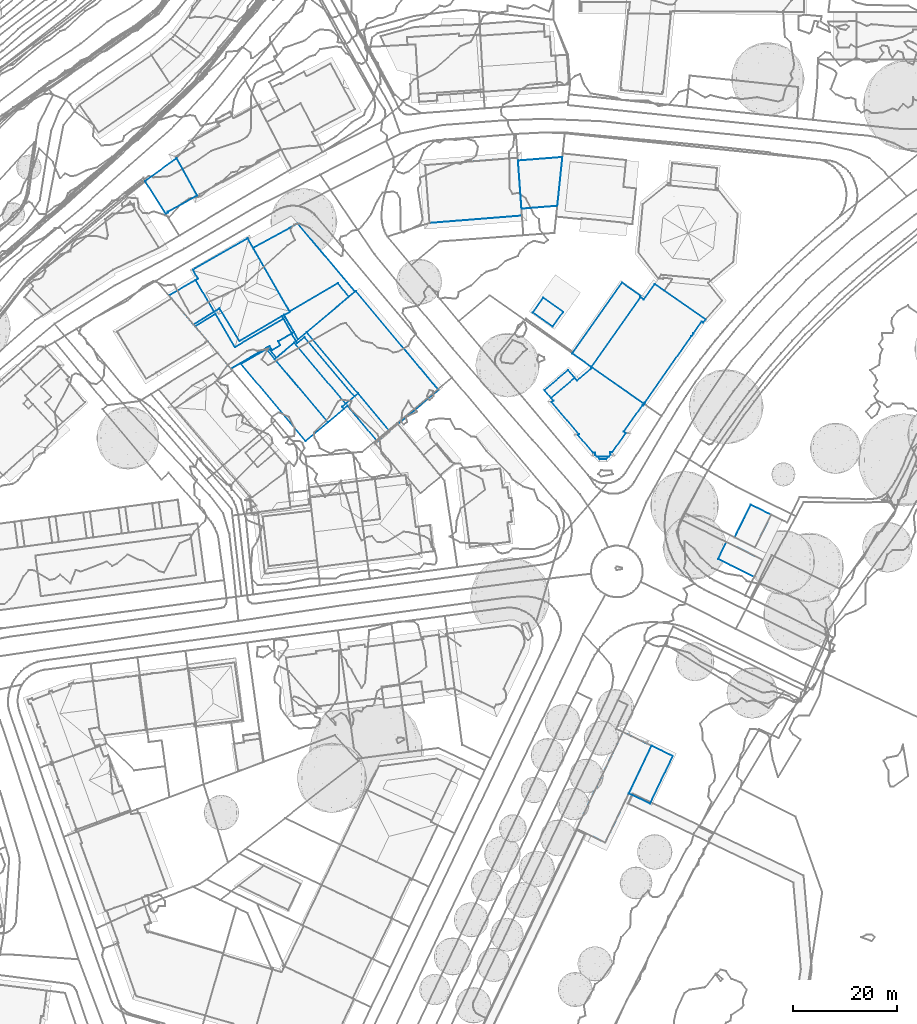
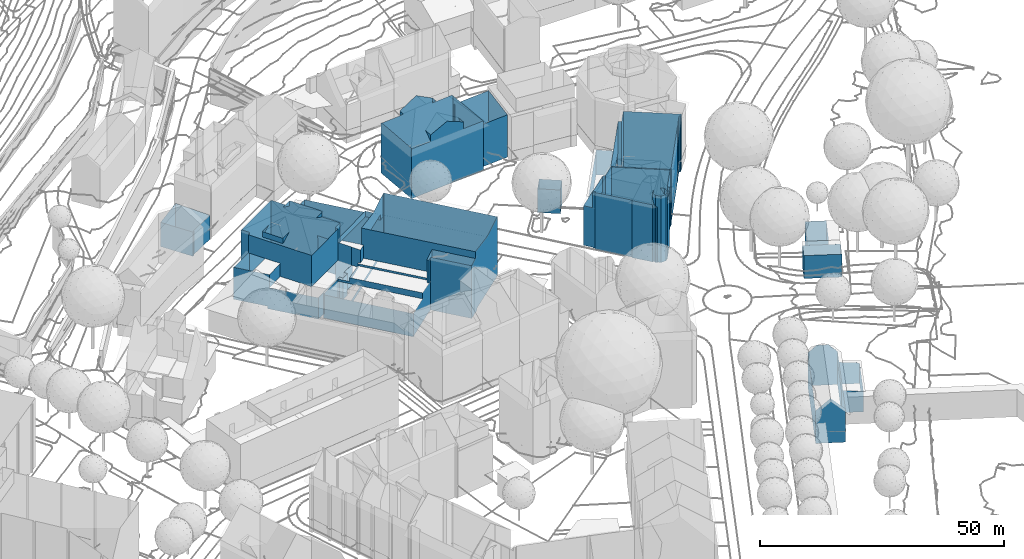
# Not in any storey, part 50 of 477: 12 walls.
"""IFC4 building model written with IfcOpenShell, lengths in metres."""

from ifc_helpers import new_model, si_unit, frame, origin_with_axes, place, context, subcontext, project, spatial, polygons, element, save


model = new_model("IFC4")

# Units and contexts
model_context = context("Model", 3, precision=1e-05, world=origin_with_axes())
body_context = subcontext(model_context, "Body", "Model", "MODEL_VIEW")
ifc_project = project(units=[si_unit("AREAUNIT", "SQUARE_METRE"), si_unit("LENGTHUNIT", "METRE")], contexts=[model_context])

# Sites, building
site_1_placement = place(None, origin_with_axes())
site_1 = spatial("IfcSite", under=ifc_project, at=site_1_placement, Name="Topoexport Site")
site_2_placement = place(site_1_placement, origin_with_axes())
site_2 = spatial("IfcSite", under=site_1, at=site_2_placement, Name="TPX_BUILDINGS")
building_1_placement = place(site_2_placement, frame((498.6247320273, 242.5555160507, 500.7935), z_axis=(0.0, 0.0, 1.0), x_axis=(1.0, 0.0, 0.0)))
building_1 = spatial("IfcBuilding", under=site_2, at=building_1_placement, Name="Building 78", CompositionType="ELEMENT")

# Wall
wall_1_placement = place(None, frame((498.6247320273, 242.5555160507, 500.7935), z_axis=(0.0, 0.0, 1.0), x_axis=(1.0, 0.0, 0.0)))
element("IfcWall", 1, at=wall_1_placement, inside=building_1, Name="Wall 0", context=body_context, shape_type="Tessellation", body=[
    polygons([(9.5240000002, -3.6611999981, 12.7668), (9.5240000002, -3.6611999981, 14.1177), (11.8209999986, -2.3183999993, 14.1177), (7.0659999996, 0.5429000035, 12.7668), (9.362999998, 1.8847000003, 14.1177), (7.0659999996, 0.5429000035, 14.1177), (13.7329999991, -13.0097999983, -0.6109), (11.9100000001, -14.0595999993, 4.7326), (13.7329999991, -13.0097999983, 4.7326), (13.8579999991, -13.1591999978, -0.6109), (13.8579999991, -13.1591999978, 4.7326), (18.7349999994, -10.3310999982, -0.6109), (18.7349999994, -10.3310999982, 4.7325), (18.6279999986, -10.191399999, -0.6109), (18.6279999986, -10.191399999, 4.7325), (19.3709999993, -9.7636999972, -0.6109), (19.3709999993, -9.7636999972, 4.7325), (19.8000000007, -10.5088, -0.6109), (19.8000000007, -10.5088, 4.7325), (21.4030000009, -9.5859999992, -0.6109), (21.4030000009, -9.5859999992, 4.7325), (20.9739999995, -8.8407999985, -0.6109), (20.9739999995, -8.8407999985, 4.7325), (24.0399999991, -7.0761999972, -0.6109), (24.0399999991, -7.0761999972, 4.7325), (22.1510000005, -3.8017999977, -0.397), (22.1109999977, -3.7314999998, -0.6109), (22.1109999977, -3.7314999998, -0.397), (22.1510000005, -3.8017999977, 4.7326), (13.5709999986, -8.7636999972, -0.6109), (13.5709999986, -8.7636999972, -0.397), (4.7369999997, -5.5927999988, -0.6109), (8.6909999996, -3.1327999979, -0.3969), (4.7369999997, -5.5927999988, 0.0), (9.6979999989, -2.5058999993, -0.6109), (9.6979999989, -2.5058999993, -0.3969), (21.1669999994, 0.4414000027, 12.8998), (19.0489999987, -0.7968999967, 14.1177), (21.1669999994, 0.4414000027, 14.1177), (17.2879999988, 7.1787, 12.8748), (17.2879999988, 7.1787, 14.1177), (15.1259999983, 5.9150000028, 14.1177), (4.5920000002, 4.933600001, -0.3969), (15.112999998, 10.9550000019, -0.3969), (4.5920000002, 4.933600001, 12.6968), (15.112999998, 10.9550999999, 7.8213), (12.4820000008, 9.4492000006, 12.7388), (15.112999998, 10.9550999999, 2.8908), (23.2469999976, -3.1708999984, -0.397), (23.2469999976, -3.1708999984, 6.2014), (21.756000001, -4.0282999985, 4.7326), (21.756000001, -4.0282999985, 12.8108), (12.6730000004, -9.9433999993, 12.5368), (22.0170000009, -4.4814999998, 12.5368), (12.6730000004, -9.9433999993, 4.7326), (22.0170000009, -4.4814999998, 4.7326), (5.1400000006, 2.942400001, 0.0), (8.6909999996, -3.1327999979, 0.0), (8.938000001, -3.5546999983, 7.9963), (5.1400000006, 2.942400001, 12.5368), (8.938000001, -3.5546999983, 4.7326), (5.1400000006, 2.942400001, 7.9963), (5.0500000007, -5.9618999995, 7.9963), (0.0, 0.0, 7.9963), (5.0500000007, -5.9618999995, 4.7326), (11.9100000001, -14.0595999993, -0.6109), (0.0, 0.0, 0.0), (5.5850000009, 3.1972000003, 12.7968), (5.5850000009, 3.1972000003, -0.3969), (4.699000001, 4.746100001, 12.8058), (15.2199999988, 10.7695000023, 12.8608), (15.112999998, 10.9550999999, 12.7528), (17.4919999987, 6.8242000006, 14.2747), (20.9419999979, 0.8310000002, 14.2956), (23.2469999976, -3.1708999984, 12.8048), (23.1449999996, -2.9941999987, 12.9128), (5.1400000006, 2.942400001, -0.3969)], [[[3, 2, 1]], [[6, 5, 4]], [[2, 6, 1]], [[9, 8, 7]], [[11, 9, 10]], [[13, 11, 12]], [[15, 13, 14]], [[17, 15, 16]], [[19, 17, 18]], [[21, 19, 20]], [[23, 21, 22]], [[25, 23, 24]], [[27, 26, 24]], [[26, 27, 28]], [[25, 26, 29]], [[26, 25, 24]], [[31, 28, 30]], [[34, 33, 32]], [[33, 36, 35]], [[33, 35, 32]], [[36, 31, 35]], [[39, 38, 37]], [[42, 41, 40]], [[45, 44, 43]], [[48, 47, 46]], [[50, 29, 49]], [[29, 26, 49]], [[52, 51, 29]], [[55, 54, 53]], [[55, 56, 54]], [[56, 51, 52]], [[58, 57, 33]], [[53, 59, 55]], [[59, 53, 60]], [[55, 59, 61]], [[62, 59, 60]], [[59, 63, 61]], [[65, 63, 64]], [[34, 66, 8]], [[8, 65, 34]], [[67, 34, 65]], [[34, 32, 66]], [[67, 65, 64]], [[69, 68, 45]], [[43, 69, 45]], [[68, 70, 45]], [[46, 72, 71]], [[40, 41, 73]], [[46, 71, 40]], [[48, 46, 50]], [[48, 49, 44]], [[37, 46, 40]], [[37, 50, 46]], [[40, 74, 37]], [[74, 39, 37]], [[37, 76, 75]], [[49, 48, 50]], [[50, 37, 75]], [[73, 74, 40]], [[67, 64, 57]], [[77, 57, 69]], [[57, 64, 62]], [[60, 68, 69]], [[62, 69, 57]], [[69, 62, 60]], [[6, 4, 1]], [[8, 66, 7]], [[9, 7, 10]], [[11, 10, 12]], [[13, 12, 14]], [[15, 14, 16]], [[17, 16, 18]], [[19, 18, 20]], [[21, 20, 22]], [[23, 22, 24]], [[28, 27, 30]], [[58, 33, 34]], [[31, 30, 35]], [[45, 47, 44]], [[72, 46, 47]], [[44, 47, 48]], [[75, 52, 29]], [[50, 75, 29]], [[52, 54, 56]], [[57, 77, 33]], [[63, 65, 61]]]),
])

# Building
building_2_placement = place(site_2_placement, frame((512.3577320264, 229.5457160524, 499.1847), z_axis=(0.0, 0.0, 1.0), x_axis=(1.0, 0.0, 0.0)))
building_2 = spatial("IfcBuilding", under=site_2, at=building_2_placement, Name="Building 80", CompositionType="ELEMENT")

# Wall
wall_2_placement = place(None, frame((512.3577320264, 229.5457160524, 499.1847), z_axis=(0.0, 0.0, 1.0), x_axis=(1.0, 0.0, 0.0)))
element("IfcWall", 2, at=wall_2_placement, inside=building_2, Name="Wall 0", context=body_context, shape_type="Tessellation", body=[
    polygons([(20.2410000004, -7.8192999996, -0.0321), (20.2410000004, -7.8192999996, -0.0021), (19.5500000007, -8.4013999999, -0.225), (19.5500000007, -8.4013999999, -0.0021), (22.6040000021, -5.8291000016, -0.225), (22.6040000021, -5.8291000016, -0.0321), (19.8770000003, -8.7890999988, -0.2251), (19.8770000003, -8.7890999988, -0.0021), (19.8770000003, -8.7890999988, 7.1012), (19.5500000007, -8.4013999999, 7.1012), (19.8770000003, -8.7890999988, 12.7847), (22.1979999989, 13.7987999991, 15.1225), (22.1979999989, 13.7987999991, 0.2619), (32.1220000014, 1.9580000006, 0.2619), (30.0139999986, 4.4717000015, 15.1185), (35.0989999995, -1.5947000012, 0.2619), (38.0760000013, -5.1475000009, 0.2619), (22.0749999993, 13.6963, 7.6682), (22.0749999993, 13.6963, 0.2619), (22.0749999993, 13.6963, 15.0985), (27.9970000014, -13.6240000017, 13.3336), (21.9180000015, -6.4072000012, 13.3336), (27.9970000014, -13.6240000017, 15.0425), (12.0340000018, 5.3291000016, 15.0425), (21.9180000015, -6.4072000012, 7.5842), (12.3099999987, 5.0009999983, 10.8489), (12.0340000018, 5.3291000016, 10.8489), (12.3099999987, 5.0009999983, 7.5842), (9.9090000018, 5.7050999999, 1.1238), (8.0230000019, 8.9814000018, 1.1239), (9.9090000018, 5.7050999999, 10.8489), (9.4670000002, 9.9199000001, 1.1239), (18.7419999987, 15.3828000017, 1.1868), (9.4670000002, 9.9199000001, 1.1868), (2.4330000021, 22.1367000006, 1.1869), (11.0240000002, 26.817400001, 9.4411), (2.4330000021, 22.1367000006, 9.4411), (9.5139999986, 9.8388999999, 1.1239), (8.0230000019, 8.9814000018, 10.8489), (9.5139999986, 9.8388999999, 10.8489), (9.4670000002, 9.9199000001, 9.4411), (18.7419999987, 15.3828000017, 10.8489), (9.4670000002, 9.9199000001, 10.8489), (10.9149999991, 3.8183999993, 7.5842), (10.693, 4.1992000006, 7.5842), (10.9149999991, 3.8183999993, 10.8489), (9.8399999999, 5.6649999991, 10.8489), (9.8399999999, 5.6649999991, 6.3413), (10.693, 4.1992000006, 6.3413), (18.7419999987, 15.3828000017, 1.1239), (20.8209999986, 12.7314999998, 1.1868), (20.8209999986, 12.7314000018, 9.441), (18.7419999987, 15.3828000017, 9.4411), (20.5670000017, -8.2060000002, 7.5842), (20.6409999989, -8.2754000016, 7.5842), (20.6429999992, -8.2763999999, 3.7756), (20.6429999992, -8.2763999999, 1.8717), (20.5670000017, -8.2060000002, -0.0321), (20.6440000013, -8.2773000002, -0.0321), (7.6700000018, 3.4237999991, 1.0359), (7.2410000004, 4.1689000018, 6.3413), (7.6700000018, 3.4237999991, 6.3413), (6.0670000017, 2.5009999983, 1.0359), (6.0670000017, 2.5009999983, 6.3413), (5.6380000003, 3.246100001, 1.0359), (5.6380000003, 3.246100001, 6.3413), (12.550999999, -14.9756000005, -0.0001), (0.0, 0.0, 5.7954), (12.550999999, -14.9756000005, 5.7954), (22.0139999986, -9.9061999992, 3.0676), (22.0139999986, -9.9072000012, 6.3603), (26.3229999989, -15.0322000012, -0.2251), (26.3229999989, -15.0322000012, 12.9457), (26.3229999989, -15.0322000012, 9.653), (22.0139999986, -9.9072000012, -0.2251), (22.0139999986, -9.9061999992, 9.654), (20.5769999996, -8.1981999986, 9.654), (20.5769999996, -8.1981999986, 7.5842), (20.5769999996, -8.1981999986, -0.2251), (20.5769999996, -8.1981999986, -0.0321), (20.2410000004, -7.8192999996, 7.5842), (19.5500000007, -8.4013999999, 12.7847), (20.2410000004, -7.8192999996, 7.0573), (10.3460000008, 3.9072000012, 7.5842), (10.3460000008, 3.9072000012, -0.002), (10.307, 5.933600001, 1.0359), (11.1059999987, 4.5478999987, 1.1238), (10.307, 5.933600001, 1.1238), (5.2470000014, 3.0214999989, 0.0), (6.9270000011, 1.0273000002, 1.0359), (5.2470000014, 3.0214999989, 1.0359), (17.3909999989, 9.8418000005, 10.8489), (17.3909999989, 9.8418000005, 14.1766), (20.8209999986, 12.7314999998, 10.8489), (22.0300000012, 13.7490000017, 9.441), (22.0300000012, 13.7490000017, 15.0985), (33.3579999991, -9.1152000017, 14.1766), (38.0760000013, -5.1475000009, 15.1135), (33.3579999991, -9.1152000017, 0.2619), (26.3229999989, -15.0322000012, 6.3593), (28.6840000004, -13.0458999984, 0.2619), (28.6840000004, -13.0458999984, -0.2251), (11.0240000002, 26.817400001, 1.1869), (22.0300000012, 13.7490000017, 1.1868), (22.0300000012, 13.7490000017, 0.2619), (4.8949999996, 2.8183999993, 5.7954), (0.0, 0.0, 0.0), (4.8949999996, 2.8183999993, 6.3413), (16.8289999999, -11.3632999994, 5.7954), (6.6150000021, 0.7637000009, 6.3413), (16.8289999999, -11.3632999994, 7.2982), (6.9180000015, 0.4043000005, 5.7954), (6.6150000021, 0.7637000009, 5.7954), (10.3460000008, 3.9072000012, 7.0583), (6.6150000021, 0.7637000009, 7.2983), (6.9270000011, 1.0273000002, -0.002), (12.7190000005, 5.9063000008, 0.2619), (11.1059999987, 4.5478999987, 1.0359), (10.3460000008, 3.9072000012, -0.032), (12.7190000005, 5.9063000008, -0.032), (12.7190000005, 5.9063000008, 1.1238), (20.8209999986, 12.7314000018, 1.1238), (17.3909999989, 9.8418000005, 1.1238), (17.3909999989, 9.8418000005, 0.2619), (22.6040000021, -5.8291000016, 0.2619), (22.9970000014, -6.2949000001, 0.2619), (7.2410000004, 4.1689000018, 1.0359), (20.5769999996, -8.1981999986, 12.9477), (16.8289999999, -11.3632999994, -0.0021)], [[[3, 2, 1]], [[2, 3, 4]], [[3, 1, 5]], [[6, 5, 1]], [[8, 4, 7]], [[11, 10, 9]], [[14, 13, 12]], [[14, 12, 15]], [[15, 16, 14]], [[16, 15, 17]], [[19, 18, 13]], [[18, 20, 13]], [[23, 22, 21]], [[22, 23, 24]], [[22, 26, 25]], [[26, 24, 27]], [[24, 26, 22]], [[26, 28, 25]], [[31, 30, 29]], [[34, 33, 32]], [[37, 36, 35]], [[39, 38, 30]], [[38, 39, 40]], [[43, 42, 41]], [[46, 45, 44]], [[45, 46, 47]], [[48, 45, 47]], [[48, 49, 45]], [[33, 51, 50]], [[26, 46, 28]], [[53, 42, 52]], [[56, 55, 54]], [[56, 58, 57]], [[58, 56, 54]], [[58, 59, 57]], [[62, 61, 60]], [[64, 62, 63]], [[66, 64, 65]], [[69, 68, 67]], [[72, 71, 70]], [[71, 74, 73]], [[75, 72, 70]], [[76, 55, 71]], [[55, 76, 77]], [[71, 55, 56]], [[78, 55, 77]], [[75, 70, 57]], [[57, 70, 56]], [[57, 59, 75]], [[80, 79, 59]], [[59, 79, 75]], [[82, 81, 10]], [[81, 82, 22]], [[10, 81, 83]], [[25, 81, 22]], [[81, 84, 83]], [[2, 85, 1]], [[88, 87, 86]], [[91, 90, 89]], [[24, 93, 92]], [[92, 27, 24]], [[93, 94, 92]], [[94, 96, 95]], [[96, 94, 93]], [[95, 52, 94]], [[98, 97, 17]], [[17, 97, 99]], [[97, 100, 99]], [[97, 21, 74]], [[73, 74, 21]], [[74, 100, 97]], [[102, 101, 72]], [[100, 72, 101]], [[99, 100, 101]], [[21, 97, 23]], [[40, 41, 38]], [[41, 40, 43]], [[38, 41, 34]], [[37, 34, 41]], [[35, 34, 37]], [[103, 36, 18]], [[18, 104, 103]], [[105, 104, 19]], [[18, 36, 95]], [[18, 19, 104]], [[95, 20, 18]], [[96, 20, 95]], [[107, 106, 91]], [[106, 107, 68]], [[108, 66, 106]], [[65, 91, 106]], [[91, 89, 107]], [[65, 106, 66]], [[111, 110, 109]], [[110, 112, 109]], [[106, 113, 108]], [[110, 113, 112]], [[49, 115, 114]], [[115, 49, 110]], [[84, 45, 114]], [[49, 114, 45]], [[116, 90, 85]], [[118, 117, 90]], [[120, 119, 85]], [[117, 85, 90]], [[121, 118, 87]], [[122, 104, 105]], [[104, 122, 51]], [[123, 122, 105]], [[117, 120, 85]], [[118, 124, 117]], [[105, 124, 121]], [[121, 123, 105]], [[118, 121, 124]], [[117, 6, 120]], [[6, 117, 125]], [[6, 102, 5]], [[101, 6, 126]], [[102, 6, 101]], [[126, 6, 125]], [[127, 48, 29]], [[48, 127, 61]], [[47, 31, 48]], [[31, 29, 48]], [[29, 86, 127]], [[77, 128, 11]], [[9, 54, 77]], [[77, 54, 78]], [[79, 80, 58]], [[9, 58, 54]], [[7, 79, 58]], [[11, 9, 77]], [[9, 111, 109]], [[67, 109, 69]], [[9, 109, 8]], [[7, 58, 8]], [[8, 58, 9]], [[4, 3, 7]], [[82, 10, 11]], [[98, 17, 15]], [[12, 13, 20]], [[39, 30, 31]], [[33, 50, 32]], [[36, 103, 35]], [[42, 53, 41]], [[51, 122, 50]], [[46, 44, 28]], [[42, 94, 52]], [[61, 127, 60]], [[62, 60, 63]], [[64, 63, 65]], [[68, 107, 67]], [[73, 76, 71]], [[128, 76, 73]], [[100, 74, 71]], [[71, 72, 100]], [[76, 128, 77]], [[70, 71, 56]], [[84, 114, 83]], [[85, 119, 1]], [[87, 118, 86]], [[90, 116, 89]], [[34, 32, 38]], [[115, 110, 111]], [[113, 110, 108]], [[29, 88, 86]], [[129, 109, 67]], [[109, 129, 8]]]),
])

# Building
building_3_placement = place(site_2_placement, frame((547.8737320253, 267.5604160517, 499.9486), z_axis=(0.0, 0.0, 1.0), x_axis=(1.0, 0.0, 0.0)))
building_3 = spatial("IfcBuilding", under=site_2, at=building_3_placement, Name="Building 109", CompositionType="ELEMENT")

# Wall
wall_3_placement = place(None, frame((547.8737320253, 267.5604160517, 499.9486), z_axis=(0.0, 0.0, 1.0), x_axis=(1.0, 0.0, 0.0)))
element("IfcWall", 3, at=wall_3_placement, inside=building_3, Name="Wall 0", context=body_context, shape_type="Tessellation", body=[
    polygons([(18.182, -4.1259999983, 4.5735), (17.9780000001, -1.3134999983, 12.2728), (17.9920000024, -1.5088, 0.0), (18.382000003, -6.9003999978, 12.3348), (18.182, -4.1259999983, 12.3038), (17.7800000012, 1.4237999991, 9.1511), (17.7800000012, 1.4237999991, 12.2428), (17.7800000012, 1.4237999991, 0.0), (17.7800000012, 1.4237999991, 6.0594), (18.0810000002, -2.7382999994, 0.0), (18.382000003, -6.9003999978, 3.0587), (18.2400000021, -4.928799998, 0.0), (18.382000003, -6.9013999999, 0.0), (18.4820000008, -8.2890999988, 0.0), (18.5820000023, -9.6767999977, 3.0917), (18.5820000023, -9.6767999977, 0.0), (13.6840000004, -10.0665000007, 12.3838), (13.6840000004, -10.0665000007, 14.0816), (13.5300000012, -8.2148999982, 14.0816), (5.564000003, -10.7168000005, 12.4038), (5.4130000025, -8.8867999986, 14.0816), (5.564000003, -10.7168000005, 14.0816), (12.7660000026, 1.0223999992, 12.4288), (12.875, -0.2958999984, 13.6337), (12.7660000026, 1.0223999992, 13.6337), (4.6460000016, 0.3720000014, 12.4078), (4.6460000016, 0.3720000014, 13.6337), (4.757000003, -0.9668000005, 13.6337), (0.8300000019, -11.0956999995, 12.4158), (0.8300000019, -11.0956999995, 0.0), (0.8170000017, -10.9189999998, 0.0), (0.0, 0.0, 0.0), (0.0, 0.0, 12.3968), (0.8170000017, -10.9189999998, 12.5778), (0.0219999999, -0.2939999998, 12.6648), (8.7060000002, 0.6972000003, 15.8685), (17.5899999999, 1.4081999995, 12.4408), (9.6240000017, -10.3915999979, 15.8685), (7.6469999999, -10.5498999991, 0.0), (18.5820000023, -9.6767999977, 12.3678), (5.5540000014, -10.7177999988, 0.0), (5.5540000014, -10.7177999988, 12.4038)], [[[3, 2, 1]], [[1, 5, 4]], [[7, 2, 6]], [[9, 3, 8]], [[3, 1, 10]], [[12, 1, 11]], [[12, 11, 13]], [[11, 14, 13]], [[14, 11, 15]], [[16, 14, 15]], [[1, 12, 10]], [[19, 18, 17]], [[22, 21, 20]], [[25, 24, 23]], [[28, 27, 26]], [[31, 30, 29]], [[32, 31, 29]], [[29, 34, 33]], [[35, 33, 34]], [[29, 33, 32]], [[26, 27, 36]], [[23, 26, 36]], [[33, 26, 32]], [[8, 32, 26]], [[23, 36, 25]], [[6, 23, 37]], [[6, 37, 7]], [[8, 26, 9]], [[9, 23, 6]], [[9, 26, 23]], [[17, 18, 38]], [[39, 16, 15]], [[15, 40, 17]], [[15, 17, 39]], [[38, 20, 39]], [[20, 38, 22]], [[20, 42, 41]], [[39, 20, 41]], [[30, 41, 42]], [[29, 30, 42]], [[38, 39, 17]], [[2, 5, 1]], [[1, 4, 11]], [[9, 6, 2]], [[2, 3, 9]], [[40, 15, 4]], [[11, 4, 15]]]),
])

# Building
building_4_placement = place(site_2_placement, frame((494.0337320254, 264.5447160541, 502.2364), z_axis=(0.0, 0.0, 1.0), x_axis=(1.0, 0.0, 0.0)))
building_4 = spatial("IfcBuilding", under=site_2, at=building_4_placement, Name="Building 115", CompositionType="ELEMENT")

# Wall
wall_4_placement = place(None, frame((494.0337320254, 264.5447160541, 502.2364), z_axis=(0.0, 0.0, 1.0), x_axis=(1.0, 0.0, 0.0)))
element("IfcWall", 4, at=wall_4_placement, inside=building_4, Name="Wall 0", context=body_context, shape_type="Tessellation", body=[
    polygons([(4.325000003, -5.9463, 0.0), (4.3949999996, -6.0722000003, 6.0464), (4.325000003, -5.9463, 6.0464), (10.0240000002, -2.7998000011, 0.0), (10.0240000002, -2.7998000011, 6.0464), (6.0700000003, 4.3662, 0.0), (6.0700000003, 4.3662, 6.0465), (0.0, 0.0, 0.0), (0.0, 0.0, 6.0465), (3.9730000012, -6.3047000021, 0.0), (3.9730000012, -6.3047000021, 6.0464), (4.3949999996, -6.0722000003, 0.0)], [[[3, 2, 1]], [[5, 3, 4]], [[7, 5, 6]], [[9, 7, 8]], [[11, 9, 10]], [[2, 11, 12]], [[2, 12, 1]], [[3, 1, 4]], [[5, 4, 6]], [[7, 6, 8]], [[9, 8, 10]], [[11, 10, 12]]]),
])

# Building
building_5_placement = place(site_2_placement, frame((576.9417320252, 139.999816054, 499.5324), z_axis=(0.0, 0.0, 1.0), x_axis=(1.0, 0.0, 0.0)))
building_5 = spatial("IfcBuilding", under=site_2, at=building_5_placement, Name="Building 168", CompositionType="ELEMENT")

# Wall
wall_5_placement = place(None, frame((576.9417320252, 139.999816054, 499.5324), z_axis=(0.0, 0.0, 1.0), x_axis=(1.0, 0.0, 0.0)))
element("IfcWall", 5, at=wall_5_placement, inside=building_5, Name="Wall 0", context=body_context, shape_type="Tessellation", body=[
    polygons([(10.4890000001, 17.8534999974, 10.0571), (10.4990000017, 17.8486000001, 0.0001), (11.5860000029, 17.3280999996, 10.0631), (11.7790000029, 17.2362999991, 0.0), (12.7589999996, 16.7655999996, 10.0681), (12.7589999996, 16.7655999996, 0.0), (13.194000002, 16.557599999, 9.5621), (13.2440000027, 16.5341999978, 1.9529), (13.3420000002, 16.4872999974, 4.3566), (13.5360000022, 16.3935999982, 5.9195), (13.5360000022, 16.3935999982, 0.0), (9.6220000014, 18.2694999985, 0.0001), (9.3770000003, 18.3866999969, 8.7652), (8.9010000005, 18.615199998, 0.0001), (8.9010000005, 18.615199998, 8.2693), (9.7270000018, 18.2187999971, 9.1302), (4.450000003, 9.307599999, 8.2423), (0.0, 0.0, 8.2142), (5.1810000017, 10.8349999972, 2.8848), (6.6760000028, 13.9608999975, 8.2553), (0.0, 0.0, 0.0), (5.007000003, 10.4706999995, 0.0), (1.7520000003, -0.8388999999, 10.0421), (1.6150000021, -0.7744000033, 0.0), (2.893000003, -1.3857000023, 0.0), (4.1410000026, -1.9834000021, 9.7131), (5.5170000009, -2.6425999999, 0.0), (8.0600000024, 2.6787, 8.3202), (9.4790000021, 5.6454999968, 0.0), (8.7360000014, 4.0917999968, 0.0), (7.3740000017, 1.2431999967, 0.0), (14.4150000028, 15.9726999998, 8.2832), (14.4150000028, 15.9726999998, 0.0), (9.4790000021, 5.6454999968, 8.3112), (11.6380000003, 10.1640999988, 0.0), (13.5360000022, 16.3935999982, 9.1652), (2.762000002, -1.3232000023, 11.095), (5.5170000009, -2.6425999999, 8.3342)], [[[3, 2, 1]], [[3, 5, 4]], [[5, 6, 4]], [[5, 7, 6]], [[6, 7, 8]], [[7, 10, 9]], [[9, 10, 8]], [[8, 11, 6]], [[14, 13, 12]], [[14, 15, 13]], [[13, 16, 12]], [[19, 18, 17]], [[17, 20, 19]], [[18, 19, 21]], [[19, 22, 21]], [[20, 15, 19]], [[15, 14, 19]], [[19, 14, 22]], [[23, 18, 21]], [[24, 23, 21]], [[12, 16, 2]], [[1, 2, 16]], [[27, 26, 25]], [[30, 29, 28]], [[31, 30, 28]], [[28, 27, 31]], [[34, 33, 32]], [[34, 35, 33]], [[28, 35, 34]], [[29, 35, 28]], [[36, 32, 10]], [[11, 32, 33]], [[2, 3, 4]], [[7, 9, 8]], [[36, 10, 7]], [[10, 11, 8]], [[23, 24, 37]], [[25, 37, 24]], [[38, 26, 27]], [[37, 25, 26]], [[38, 27, 28]], [[32, 11, 10]]]),
])

# Building
building_6_placement = place(site_2_placement, frame((586.985732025, 146.8299160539, 499.5454), z_axis=(0.0, 0.0, 1.0), x_axis=(1.0, 0.0, 0.0)))
building_6 = spatial("IfcBuilding", under=site_2, at=building_6_placement, Name="Building 169", CompositionType="ELEMENT")

# Wall
wall_6_placement = place(None, frame((586.985732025, 146.8299160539, 499.5454), z_axis=(0.0, 0.0, 1.0), x_axis=(1.0, 0.0, 0.0)))
element("IfcWall", 6, at=wall_6_placement, inside=building_6, Name="Wall 0", context=body_context, shape_type="Tessellation", body=[
    polygons([(8.4470000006, 7.1893999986, 5.1605), (4.3710000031, 9.1425999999, 5.5845), (4.3710000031, 9.1425999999, 0.0), (8.4470000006, 7.1893999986, 0.0), (0.0, 0.0, 0.0), (4.0789999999, -1.9502000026, 0.0), (0.0, 0.0, 5.5875), (4.0789999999, -1.9502000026, 5.1625)], [[[3, 2, 1]], [[4, 3, 1]], [[3, 5, 2]], [[7, 5, 6]], [[8, 6, 1]], [[1, 6, 4]], [[7, 2, 5]], [[8, 7, 6]]]),
])

# Building
building_7_placement = place(site_2_placement, frame((604.1217320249, 191.883616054, 499.7615), z_axis=(0.0, 0.0, 1.0), x_axis=(1.0, 0.0, 0.0)))
building_7 = spatial("IfcBuilding", under=site_2, at=building_7_placement, Name="Building 171", CompositionType="ELEMENT")

# Wall
wall_7_placement = place(None, frame((604.1217320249, 191.883616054, 499.7615), z_axis=(0.0, 0.0, 1.0), x_axis=(1.0, 0.0, 0.0)))
element("IfcWall", 7, at=wall_7_placement, inside=building_7, Name="Wall 0", context=body_context, shape_type="Tessellation", body=[
    polygons([(1.5960000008, 3.253899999, 0.0), (4.506000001, 1.8192999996, 0.0001), (4.9080000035, 1.620099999, 5.7325), (8.5789999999, -0.1904000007, 0.0001), (8.5789999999, -0.1904000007, 5.7325), (0.0, 0.0, 5.7324), (0.0, 0.0, 0.0), (1.5960000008, 3.253899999, 5.7314), (6.9760000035, -3.4414000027, 0.0001), (6.9760000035, -3.4414000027, 5.7325)], [[[3, 2, 1]], [[3, 4, 2]], [[3, 5, 4]], [[7, 6, 1]], [[8, 1, 6]], [[10, 6, 9]], [[9, 5, 10]], [[9, 4, 5]], [[1, 8, 3]], [[6, 7, 9]]]),
])

# Building
building_8_placement = place(site_2_placement, frame((607.3027320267, 196.0164160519, 499.6766), z_axis=(0.0, 0.0, 1.0), x_axis=(1.0, 0.0, 0.0)))
building_8 = spatial("IfcBuilding", under=site_2, at=building_8_placement, Name="Building 172", CompositionType="ELEMENT")

# Wall
wall_8_placement = place(None, frame((607.3027320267, 196.0164160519, 499.6766), z_axis=(0.0, 0.0, 1.0), x_axis=(1.0, 0.0, 0.0)))
element("IfcWall", 8, at=wall_8_placement, inside=building_8, Name="Wall 0", context=body_context, shape_type="Tessellation", body=[
    polygons([(0.7650000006, 1.5527000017, 5.8164), (0.0, 0.0, 5.8164), (0.0, 0.0, 0.0), (1.2859999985, 2.6084000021, 0.0), (3.1039999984, 6.2949000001, 0.0), (3.1039999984, 6.2949000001, 5.8164), (1.7639999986, 3.5771999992, 5.8164), (3.9450000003, -1.9463, 0.0), (3.9450000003, -1.9463, 5.8174), (4.7149999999, -0.3856999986, 5.8174), (7.0560000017, 4.3603999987, 0.0), (6.0029999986, 2.2256000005, 0.0), (7.0560000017, 4.3603999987, 5.8164)], [[[3, 2, 1]], [[1, 4, 3]], [[7, 6, 5]], [[9, 2, 8]], [[12, 11, 10]], [[13, 10, 11]], [[10, 8, 12]], [[5, 6, 13]], [[5, 13, 11]], [[1, 7, 4]], [[7, 5, 4]], [[2, 3, 8]], [[9, 8, 10]]]),
])

# Building
building_9_placement = place(site_2_placement, frame((565.6917320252, 268.4637160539, 499.7686), z_axis=(0.0, 0.0, 1.0), x_axis=(1.0, 0.0, 0.0)))
building_9 = spatial("IfcBuilding", under=site_2, at=building_9_placement, Name="Building 176", CompositionType="ELEMENT")

# Wall
wall_9_placement = place(None, frame((565.6917320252, 268.4637160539, 499.7686), z_axis=(0.0, 0.0, 1.0), x_axis=(1.0, 0.0, 0.0)))
element("IfcWall", 9, at=wall_9_placement, inside=building_9, Name="Wall 0", context=body_context, shape_type="Tessellation", body=[
    polygons([(8.5320000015, 0.672799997, 10.587), (8.5320000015, 0.672799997, 0.0), (7.557, -8.7110000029, 10.59), (7.557, -8.7110000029, 0.0), (0.0, 0.0, 0.0), (0.0, 0.0, 10.587), (0.6770000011, -9.25, 0.0), (0.6770000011, -9.25, 10.59)], [[[3, 2, 1]], [[2, 3, 4]], [[6, 1, 5]], [[5, 7, 6]], [[3, 8, 4]], [[1, 2, 5]], [[7, 8, 6]], [[8, 7, 4]]]),
])

# Building
building_10_placement = place(site_2_placement, frame((568.5307320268, 239.2557160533, 500.0015), z_axis=(0.0, 0.0, 1.0), x_axis=(1.0, 0.0, 0.0)))
building_10 = spatial("IfcBuilding", under=site_2, at=building_10_placement, Name="Building 177", CompositionType="ELEMENT")

# Wall
wall_10_placement = place(None, frame((568.5307320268, 239.2557160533, 500.0015), z_axis=(0.0, 0.0, 1.0), x_axis=(1.0, 0.0, 0.0)))
element("IfcWall", 10, at=wall_10_placement, inside=building_10, Name="Wall 0", context=body_context, shape_type="Tessellation", body=[
    polygons([(2.0089999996, 2.8407999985, 0.0), (5.8289999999, 0.1122999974, 5.9305), (2.0089999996, 2.8407999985, 5.9305), (0.0, 0.0, 0.0), (0.0, 0.0, 5.9305), (3.8200000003, -2.7285000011, 0.0), (3.8200000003, -2.7285000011, 5.9305), (5.8289999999, 0.1122999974, 0.0)], [[[3, 2, 1]], [[5, 3, 4]], [[7, 5, 6]], [[2, 7, 8]], [[2, 8, 1]], [[3, 1, 4]], [[5, 4, 6]], [[7, 6, 8]]]),
])

# Building
building_11_placement = place(site_2_placement, frame((576.0807320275, 231.3953160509, 499.9275), z_axis=(0.0, 0.0, 1.0), x_axis=(1.0, 0.0, 0.0)))
building_11 = spatial("IfcBuilding", under=site_2, at=building_11_placement, Name="Building 178", CompositionType="ELEMENT")

# Wall
wall_11_placement = place(None, frame((576.0807320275, 231.3953160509, 499.9275), z_axis=(0.0, 0.0, 1.0), x_axis=(1.0, 0.0, 0.0)))
element("IfcWall", 11, at=wall_11_placement, inside=building_11, Name="Wall 0", context=body_context, shape_type="Tessellation", body=[
    polygons([(15.8699999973, 13.3252000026, 13.8457), (13.7670000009, 10.3545000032, 13.8457), (13.7670000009, 10.3545000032, -0.104), (15.8699999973, 13.3252000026, -0.104), (3.7049999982, -2.6054999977, -0.104), (13.1719999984, 10.7763999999, 0.0), (3.7049999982, -2.6054999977, 0.0), (14.0350000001, -9.490199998, -0.104), (13.8570000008, -9.7460999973, 13.8457), (14.0350000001, -9.490199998, 13.8457), (13.9780000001, -9.4511999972, -0.104), (13.9780000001, -9.4511999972, 13.8457), (22.9230000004, 3.3438000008, -0.104), (22.9230000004, 3.3438000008, 13.8457), (22.9800000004, 3.3037, -0.104), (22.9800000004, 3.3037, 13.8457), (23.3350000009, 3.8115000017, -0.104), (23.3350000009, 3.8115000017, 13.8457), (23.2780000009, 3.8516000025, -0.104), (23.2780000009, 3.8516000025, 13.8457), (24.8759999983, 6.1377000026, -0.104), (24.8759999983, 6.1377000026, 13.8457), (25.1459999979, 5.9483000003, -0.104), (25.1459999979, 5.9483000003, 13.8457), (25.6389999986, 6.5069000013, -0.104), (25.6389999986, 6.5069000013, 13.8457), (13.175999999, 11.0420000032, 0.0), (13.0489999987, 10.8633000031, 6.2374), (13.175999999, 11.0420000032, 6.2374), (9.5909999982, 13.5888999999, 0.0), (9.5909999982, 13.5888999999, 6.2374), (0.0, 0.0, 0.0), (0.0, 0.0, 6.2374), (3.7049999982, -2.6054999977, 6.2374), (13.1719999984, 10.7763999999, 6.2374), (3.7049999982, -2.6054999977, 13.8457), (13.0489999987, 10.8633000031, 0.0), (13.1719999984, 10.7763999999, -0.104), (13.1719999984, 10.7763999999, 13.8457), (13.8570000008, -9.7460999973, -0.104)], [[[3, 2, 1]], [[4, 3, 1]], [[7, 6, 5]], [[10, 9, 8]], [[12, 10, 11]], [[14, 12, 13]], [[16, 14, 15]], [[18, 16, 17]], [[20, 18, 19]], [[22, 20, 21]], [[24, 22, 23]], [[26, 24, 25]], [[1, 26, 4]], [[29, 28, 27]], [[31, 29, 30]], [[33, 31, 32]], [[36, 35, 34]], [[35, 37, 28]], [[38, 6, 3]], [[35, 39, 3]], [[3, 6, 35]], [[9, 36, 34]], [[40, 34, 7]], [[34, 40, 9]], [[7, 33, 32]], [[33, 7, 34]], [[7, 5, 40]], [[6, 38, 5]], [[9, 40, 8]], [[10, 8, 11]], [[12, 11, 13]], [[14, 13, 15]], [[16, 15, 17]], [[18, 17, 19]], [[20, 19, 21]], [[22, 21, 23]], [[24, 23, 25]], [[26, 25, 4]], [[28, 37, 27]], [[29, 27, 30]], [[31, 30, 32]], [[39, 35, 36]], [[6, 37, 35]], [[39, 2, 3]]]),
])

# Building
building_12_placement = place(site_2_placement, frame((570.7887320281, 224.3660160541, 500.0575), z_axis=(0.0, 0.0, 1.0), x_axis=(1.0, 0.0, 0.0)))
building_12 = spatial("IfcBuilding", under=site_2, at=building_12_placement, Name="Building 180", CompositionType="ELEMENT")

# Wall
wall_12_placement = place(None, frame((570.7887320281, 224.3660160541, 500.0575), z_axis=(0.0, 0.0, 1.0), x_axis=(1.0, 0.0, 0.0)))
element("IfcWall", 12, at=wall_12_placement, inside=building_12, Name="Wall 0", context=body_context, shape_type="Tessellation", body=[
    polygons([(1.2609999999, -1.5058000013, -0.126), (5.8310000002, 2.3525999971, 0.0), (1.2609999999, -1.5058000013, 0.0), (19.1490000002, -2.7168000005, 13.8917), (9.0949999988, 4.3544999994, -0.126), (13.7659999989, 1.0693999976, -0.126), (9.0949999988, 4.3544999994, 13.8377), (19.1490000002, -2.7168000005, -0.126), (8.936999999, 4.111399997, -0.126), (8.936999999, 4.111399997, 14.1316), (9.7410000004, -12.5185000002, 13.8597), (9.7079999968, -12.0293000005, -0.126), (9.7079999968, -12.0293000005, 14.1066), (9.7410000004, -12.5185000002, -0.126), (10.0209999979, -12.7861000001, -0.126), (9.8859999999, -12.6572000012, 6.3794), (10.0209999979, -12.7861000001, 13.7237), (12.3819999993, -12.7656000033, 13.7237), (12.356999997, -12.7656000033, 0.048), (12.356999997, -12.7656000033, 13.7237), (12.3819999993, -12.7656000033, -0.126), (10.0789999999, -12.7861000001, 0.048), (10.0789999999, -12.7861000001, 13.7237), (12.6469999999, -12.4697000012, 13.8706), (12.6719999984, -12.442400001, 13.8846), (12.6719999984, -12.442400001, 12.1758), (12.5240000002, -12.6074000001, 4.9465), (12.6719999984, -12.442400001, -0.126), (12.6439999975, -12.0888000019, 14.0626), (12.6439999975, -12.0888000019, 0.048), (12.6329999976, -11.9541000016, 0.048), (12.6329999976, -11.9541000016, -0.126), (13.0130000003, -11.9599000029, 14.1256), (12.6429999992, -11.9541000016, 0.048), (12.6429999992, -11.9541000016, 14.1306), (13.0130000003, -11.9599000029, -0.126), (9.3599999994, -12.067400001, -0.126), (9.3599999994, -12.067400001, 14.0886), (0.0, 0.0, 0.0), (4.5689999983, 3.8359999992, 9.8771), (0.0, 0.0, 9.8771), (1.2609999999, -1.5058000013, 9.8771), (5.8310000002, 2.3525999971, 9.8771), (1.2609999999, -1.5058000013, 13.7237), (11.8159999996, -13.3164000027, 16.6174), (11.3079999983, -13.3203000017, 4.2406), (11.1419999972, -13.3222000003, 16.6174), (11.8159999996, -13.3164000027, 0.048), (10.6289999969, -13.3262000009, 0.048), (12.3979999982, -12.7236000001, 16.6174), (12.6469999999, -12.4697000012, 16.6174), (12.0869999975, -13.0400000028, 7.3633), (12.6369999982, -11.2812000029, 16.6174), (12.6369999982, -11.2812000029, 15.0695), (12.6380000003, -11.3486000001, 14.9965), (12.6399999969, -11.6670000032, 14.2746), (12.4219999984, -11.0703000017, 15.6295), (11.9799999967, -10.6377000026, 16.6174), (9.7709999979, -11.3066000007, 15.1495), (10.4129999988, -10.6513000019, 16.6174), (9.7709999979, -11.3066000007, 16.6174), (9.7809999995, -12.4931000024, 16.6174), (9.7809999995, -12.4931000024, 13.8726), (9.7740000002, -11.6933000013, 14.2746), (10.6289999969, -13.3262000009, 16.6184), (10.2599999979, -12.9638000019, 16.6184), (15.4599999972, -8.1904000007, 14.0796), (15.2189999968, -8.0205000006, 14.2276), (15.2189999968, -8.0205000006, -0.126), (15.6030000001, -8.2910000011, -0.126), (15.6030000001, -8.2910000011, 14.0786), (1.7139999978, -2.0459000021, 9.8771), (1.3939999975, -2.3183000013, -0.126), (1.7139999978, -2.0459000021, -0.126), (1.7139999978, -2.0459000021, 14.1756), (1.4890000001, -2.2373000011, 14.1766), (1.3939999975, -2.3183000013, 14.0977), (6.5819999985, -8.4541000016, 14.0996), (6.6219999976, -8.5019000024, 14.1486), (6.6219999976, -8.5019000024, -0.126), (6.2729999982, 1.8329999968, -0.126), (5.8310000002, 2.3525999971, -0.126), (4.5689999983, 3.8359999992, 0.0), (6.2729999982, 1.8329999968, 9.8771), (6.2729999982, 1.8329999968, 14.1616), (5.8310000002, 2.3525999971, 13.7237), (18.9759999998, -2.9609000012, -0.126), (18.9759999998, -2.9609000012, 14.1386), (19.0079999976, -2.9150000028, 14.1386), (8.924999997, 4.1015999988, 14.1476), (18.8530000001, -2.8740000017, 14.1946), (18.8530000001, -2.8740000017, -0.126), (18.8420000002, -2.8906000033, 14.2146), (18.8849999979, -2.8965000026, 14.1956), (6.5089999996, -8.5976000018, 14.1636), (6.4609999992, -8.638600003, 14.1256), (6.4609999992, -8.638600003, -0.126), (13.0379999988, -11.9258000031, 14.1426), (15.5439999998, -8.375, 14.1346), (9.2960000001, -11.9922000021, 14.1266)], [[[3, 2, 1]], [[6, 5, 4]], [[4, 5, 7]], [[4, 8, 6]], [[10, 7, 9]], [[7, 5, 9]], [[13, 12, 11]], [[11, 12, 14]], [[17, 16, 15]], [[16, 14, 15]], [[11, 14, 16]], [[20, 19, 18]], [[18, 19, 21]], [[23, 17, 22]], [[15, 22, 17]], [[15, 21, 22]], [[22, 21, 19]], [[26, 25, 24]], [[28, 26, 27]], [[24, 18, 26]], [[27, 18, 21]], [[27, 21, 28]], [[28, 29, 26]], [[29, 28, 30]], [[25, 26, 29]], [[32, 31, 30]], [[32, 30, 28]], [[35, 34, 33]], [[31, 32, 34]], [[34, 32, 36]], [[12, 38, 37]], [[41, 40, 39]], [[44, 43, 42]], [[47, 46, 45]], [[48, 45, 46]], [[46, 49, 48]], [[24, 51, 50]], [[20, 24, 50]], [[52, 19, 20]], [[52, 20, 50]], [[48, 19, 52]], [[55, 54, 53]], [[56, 55, 53]], [[56, 53, 35]], [[35, 29, 34]], [[53, 51, 35]], [[51, 29, 35]], [[29, 51, 24]], [[34, 29, 30]], [[58, 53, 57]], [[53, 54, 57]], [[61, 60, 59]], [[64, 63, 62]], [[62, 61, 59]], [[59, 64, 62]], [[66, 49, 65]], [[22, 49, 66]], [[62, 63, 66]], [[22, 66, 23]], [[23, 66, 63]], [[69, 68, 67]], [[67, 71, 70]], [[67, 70, 69]], [[74, 73, 72]], [[77, 76, 75]], [[75, 72, 77]], [[77, 72, 73]], [[80, 79, 78]], [[78, 77, 73]], [[78, 73, 80]], [[81, 2, 40]], [[2, 81, 82]], [[2, 83, 40]], [[86, 85, 84]], [[43, 86, 84]], [[43, 84, 81]], [[40, 43, 81]], [[8, 88, 87]], [[4, 89, 88]], [[4, 88, 8]], [[90, 10, 9]], [[85, 9, 84]], [[9, 85, 90]], [[9, 81, 84]], [[69, 92, 91]], [[91, 93, 68]], [[91, 68, 69]], [[87, 88, 94]], [[91, 92, 87]], [[91, 87, 94]], [[96, 95, 79]], [[79, 80, 97]], [[79, 97, 96]], [[33, 99, 98]], [[33, 71, 99]], [[33, 36, 70]], [[33, 70, 71]], [[37, 38, 97]], [[96, 38, 100]], [[97, 38, 96]], [[3, 72, 42]], [[3, 74, 72]], [[74, 3, 1]], [[72, 75, 44]], [[44, 42, 72]], [[39, 42, 41]], [[39, 3, 42]], [[2, 82, 1]], [[17, 11, 16]], [[26, 18, 27]], [[36, 33, 34]], [[13, 38, 12]], [[40, 83, 39]], [[86, 43, 44]], [[46, 47, 49]], [[65, 49, 47]], [[52, 50, 45]], [[45, 48, 52]]]),
])

save(model, "model.ifc")
